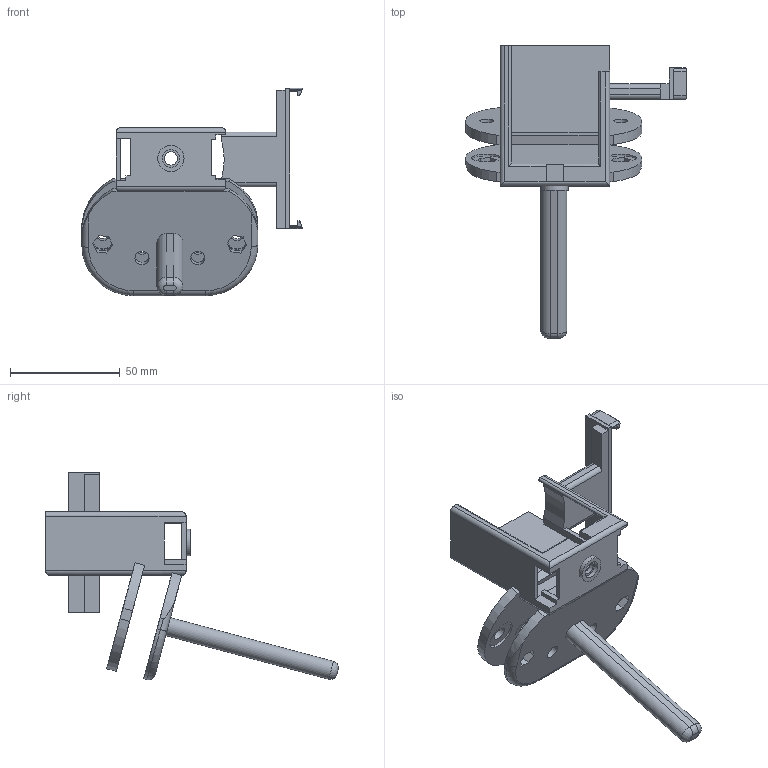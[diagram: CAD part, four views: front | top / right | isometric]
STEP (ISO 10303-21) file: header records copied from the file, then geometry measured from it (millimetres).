
FILE_DESCRIPTION(('Open CASCADE Model'),'2;1');
FILE_NAME('Open CASCADE Shape Model','2026-11-14T12:08:35',('Author'),( 'Open CASCADE'),'Open CASCADE STEP processor 8.0','Open CASCADE 8.0' ,'Unknown');
FILE_SCHEMA(('AUTOMOTIVE_DESIGN { 1 0 10303 214 1 1 1 1 }'));
Length unit declared in the file: millimetre
Products named in the file (4): handheld-body; handheld-housing; d435-vive-tracker-bracket; handheld-body-section-b-combined-part
Assembly tree (3 placements, depth 2):
  handheld-body
    handheld-housing
    d435-vive-tracker-bracket
    handheld-body-section-b-combined-part
Bounding box: 100.51 x 133.41 x 94.63 mm (x, y, z)
Volume: 82180.8 mm3; surface area: 56463.7 mm2
Topology: 3 solids, 3 shells, 317 faces, 876 edges, 568 vertices
Faces by surface type: plane 226, cylinder 87, revolution 2, torus 2
Full cylindrical faces by diameter (mm): 6 x2, 6.4 x6, 8 x2, 12 x2, 14 x6
Entity records: 23982 total; most frequent: CARTESIAN_POINT 6259, DIRECTION 3332, LINE 2174, VECTOR 2174, ORIENTED_EDGE 1752, PCURVE 1752, DEFINITIONAL_REPRESENTATION 1752, EDGE_CURVE 876
